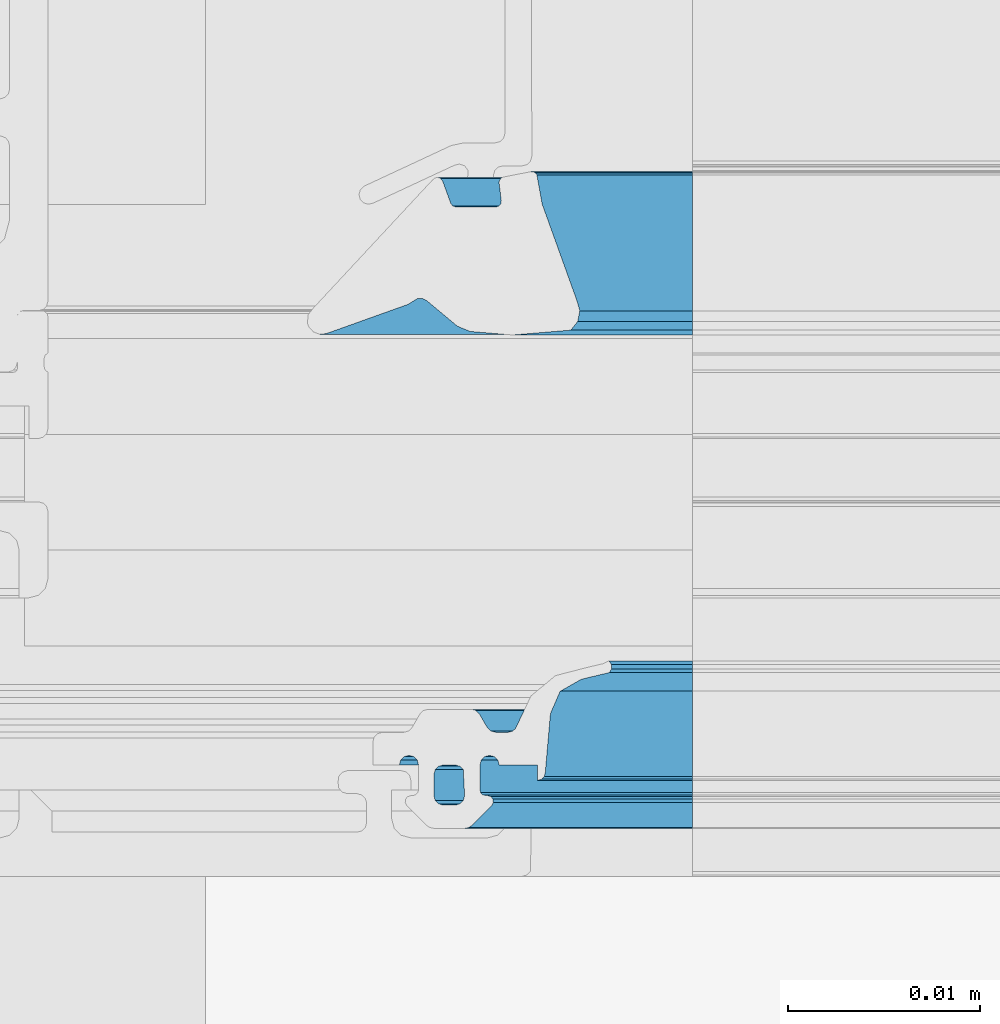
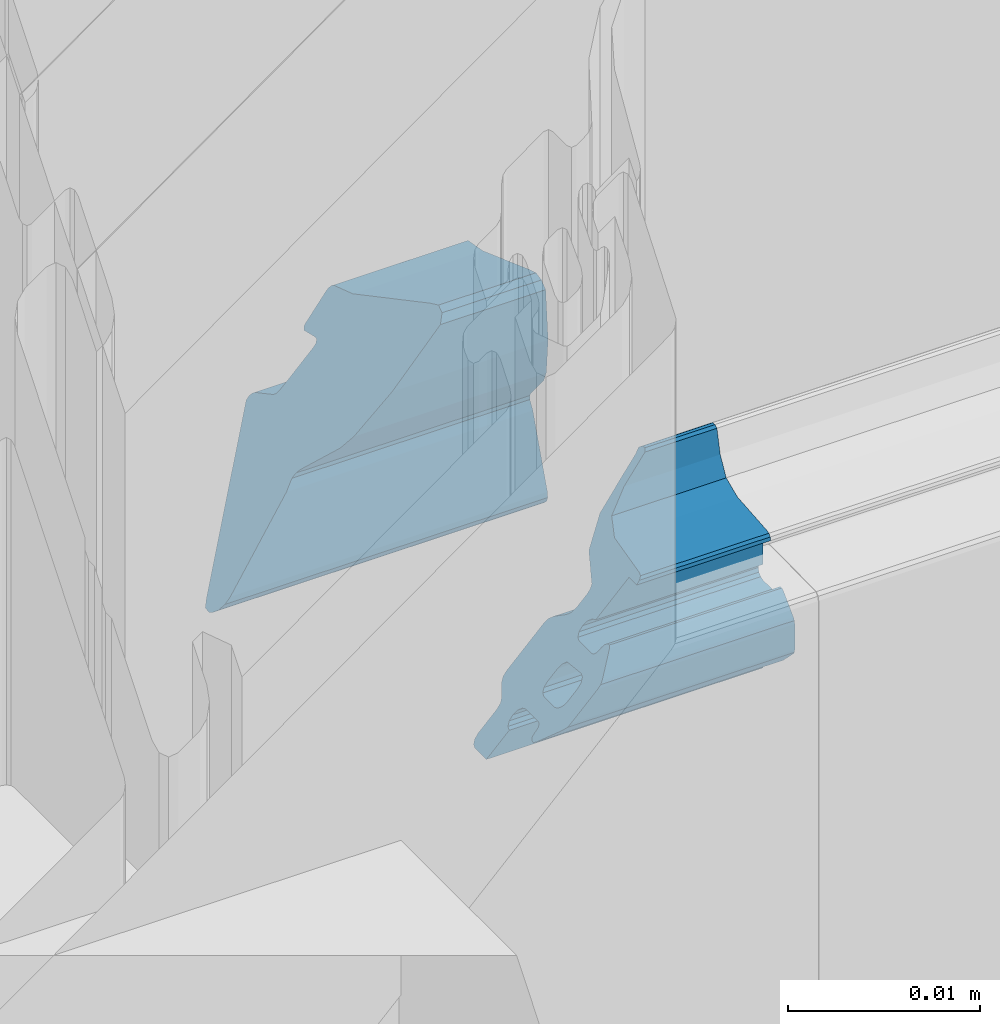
# One storey, part 40 of 69: 1 building element part, 2 elements without a shape of their own.
"""IFC2X3 building model written with IfcOpenShell, lengths in millimetres."""

from ifc_helpers import new_model, entity, si_unit, converted_unit, derived_unit, money_unit, direction, frame, origin_with_axes, place, context, subcontext, project, spatial, faceted_brep, material, type_object, element, aggregate, save


model = new_model("IFC2X3")

# Units and contexts
model_context = context("Model", 3, precision=0.01, world=origin_with_axes(), true_north=direction((0.0, 1.0)))
body_context = subcontext(model_context, "Body", "Model", "MODEL_VIEW")
ifc_project = project(units=[si_unit("LENGTHUNIT", "METRE", prefix="MILLI"), si_unit("AREAUNIT", "SQUARE_METRE"), si_unit("VOLUMEUNIT", "CUBIC_METRE"), converted_unit("PLANEANGLEUNIT", "DEGREE", entity("IfcPlaneAngleMeasure", 0.0174532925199), si_unit("PLANEANGLEUNIT", "RADIAN"), dimensions=[0, 0, 0, 0, 0, 0, 0]), si_unit("SOLIDANGLEUNIT", "STERADIAN"), money_unit("EUR"), converted_unit("TIMEUNIT", "Year", entity("IfcTimeMeasure", 31556926.0), si_unit("TIMEUNIT", "SECOND"), dimensions=[0, 0, 1, 0, 0, 0, 0]), si_unit("MASSUNIT", "GRAM", prefix="KILO"), si_unit("THERMODYNAMICTEMPERATUREUNIT", "DEGREE_CELSIUS"), si_unit("LUMINOUSINTENSITYUNIT", "LUMEN"), si_unit("ENERGYUNIT", "JOULE", prefix="MEGA"), derived_unit("THERMALCONDUCTANCEUNIT", [(si_unit("POWERUNIT", "WATT"), 1), (si_unit("LENGTHUNIT", "METRE"), -1), (si_unit("THERMODYNAMICTEMPERATUREUNIT", "KELVIN"), -1)]), derived_unit("SPECIFICHEATCAPACITYUNIT", [(si_unit("ENERGYUNIT", "JOULE"), 1), (si_unit("MASSUNIT", "GRAM", prefix="KILO"), -1), (si_unit("THERMODYNAMICTEMPERATUREUNIT", "KELVIN"), -1)]), derived_unit("MASSDENSITYUNIT", [(si_unit("MASSUNIT", "GRAM", prefix="KILO"), 1), (si_unit("VOLUMEUNIT", "CUBIC_METRE"), -1)])], contexts=[model_context])

# Site, building, storey
site_placement = place(None, origin_with_axes())
site = spatial("IfcSite", under=ifc_project, at=site_placement, Name="Puškini 31, Narva", CompositionType="ELEMENT")
building_placement = place(site_placement, origin_with_axes())
building = spatial("IfcBuilding", under=site, at=building_placement, Name="Narva Riigigümnaasium", CompositionType="ELEMENT")
storey_placement = place(building_placement, origin_with_axes())
storey = spatial("IfcBuildingStorey", under=building, at=storey_placement, Name="1.korrus 0.00", CompositionType="ELEMENT", Elevation=0.0)

# Curtain wall, member, building element part
curtain_wall_type = type_object("IfcCurtainWallType", Name="Curtain Wall Type", PredefinedType="NOTDEFINED")
curtain_wall_placement = place(storey_placement, frame((18229.9603698, 152620.000001, -0.397158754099), z_axis=(0.0, 0.0, 1.0), x_axis=(1.0, 0.0, 0.0)))
curtain_wall = element("IfcCurtainWall", 1, at=curtain_wall_placement, inside=storey, type_object=curtain_wall_type, Name="G-KLF-01-1")
member_type = type_object("IfcMemberType", Name="61 x 45", PredefinedType="MULLION")
member_placement = place(curtain_wall_placement, frame((-2105.59313248, 0.0, 0.0), z_axis=(-1.0, 0.0, 0.0), x_axis=(0.0, 0.0, 1.0)))
member = element("IfcMember", 2, at=member_placement, type_object=member_type, Name="G-SKLF-07-raam", ObjectType="MULLION")
aggregate(curtain_wall, [member])
ifc_material = material(Name="Membraan - Veekindel")
building_element_part_placement = place(member_placement, origin_with_axes())
building_element_part = element("IfcBuildingElementPart", 3, at=building_element_part_placement, material=ifc_material, Name="Membraan - Veekindel", context=body_context, shape_type="Brep", body=[
    faceted_brep([(61.0413385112, -34.3890442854, 0.0), (61.0413385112, -34.3890442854, 4.32587234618), (59.5800222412, -34.73794757, 5.78718861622), (59.5800222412, -34.73794757, 0.0), (61.1536677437, -34.1934467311, 0.0), (61.1536677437, -34.1934467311, 4.21354311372), (61.1423164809, -33.9681748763, 4.22489437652), (61.0108941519, -33.784859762, 4.35631670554), (60.7381535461, -33.9217644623, 4.62905731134), (59.8409257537, -34.1343131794, 5.52628510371), (58.2346494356, -34.5489145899, 7.13256142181), (56.9567944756, -35.6067920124, 8.41041638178), (56.2495873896, -37.1074172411, 9.11762346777), (56.1542959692, -37.3107917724, 9.21291488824), (55.9795989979, -37.4519392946, 9.38761185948), (55.7607444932, -37.5023809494, 9.60646636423), (55.1093263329, -37.5023809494, 10.2578845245), (54.8593263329, -37.4353936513, 10.5078845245), (54.676313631, -37.2523809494, 10.6908972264), (54.2721684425, -36.5523809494, 11.0950424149), (54.0891557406, -36.3693682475, 11.2780551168), (53.8391557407, -36.3023809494, 11.5280551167), (51.602145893, -36.3023809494, 13.7650649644), (51.352145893, -36.3693682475, 14.0150649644), (51.1691331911, -36.5523809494, 14.1980776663), (50.7649880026, -37.2523809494, 14.6022228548), (50.5819753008, -37.4353936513, 14.7852355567), (50.3319753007, -37.5023809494, 15.0352355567), (49.2206527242, -37.5023809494, 16.1465581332), (48.9706527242, -37.5693682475, 16.3965581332), (48.7876400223, -37.7523809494, 16.5795708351), (48.7206527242, -38.0023809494, 16.6465581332), (48.7206527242, -39.1999494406, 16.6465581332), (50.10004, -39.1999494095, 15.2671708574), (50.1670287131, -38.9499497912, 15.2001821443), (50.3500424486, -38.7669381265, 15.0171684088), (50.6000428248, -38.699952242, 14.7671680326), (50.8500424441, -38.7669409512, 14.5171684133), (51.0330541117, -38.9499546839, 14.3341567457), (51.10004, -39.1999550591, 14.2671708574), (51.10004, -40.4999366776, 14.2671708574), (51.0598476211, -40.6499366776, 14.3073632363), (50.95004, -40.7597442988, 14.4171708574), (50.80004, -40.7999366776, 14.5671708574), (50.7000457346, -40.7999366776, 14.6671651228), (50.5334025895, -40.8504763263, 14.8338082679), (50.4229059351, -40.9850671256, 14.9443049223), (50.4057850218, -41.1583618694, 14.9614258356), (50.4878083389, -41.3119729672, 14.8794025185), (51.5281601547, -42.3533311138, 13.8390507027), (51.6904310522, -42.4618421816, 13.6767798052), (51.8818844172, -42.4999486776, 13.4853264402), (53.517932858, -42.4999486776, 11.8492779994), (53.7093558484, -42.4618547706, 11.657855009), (53.8716106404, -42.3533776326, 11.495600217), (54.9122350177, -41.3120206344, 10.4549758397), (54.9942836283, -41.1584047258, 10.3729272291), (54.9771753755, -40.9850924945, 10.3900354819), (54.866675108, -40.850483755, 10.5005357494), (54.7000173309, -40.7999366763, 10.6671935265), (54.6000210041, -40.7999366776, 10.7671898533), (54.4500210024, -40.7597443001, 10.917189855), (54.3402133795, -40.6499366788, 11.0269974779), (54.300021, -40.4999366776, 11.0671898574), (54.300021, -39.1999606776, 11.0671898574), (54.3670082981, -38.9499606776, 11.0002025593), (54.5500210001, -38.7669479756, 10.8171898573), (54.8000210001, -38.6999606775, 10.5671898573), (55.0500210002, -38.7669479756, 10.3171898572), (55.2330337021, -38.9499606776, 10.1341771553), (55.3000210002, -39.1999606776, 10.0671898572), (57.3000022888, -39.1999494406, 8.06720856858), (57.3000022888, -39.9999846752, 8.06720856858), (57.5000161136, -39.9463912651, 7.86719474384), (57.6464370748, -39.7999717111, 7.72077378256), (57.7000324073, -39.5999584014, 7.66717845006), (57.9693613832, -36.5265882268, 7.39784947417), (58.4755028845, -35.3628499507, 6.89170797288), (53.5000340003, -40.7999553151, 11.8671768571), (53.4330491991, -41.0499459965, 11.9341616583), (53.2500433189, -41.2329518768, 12.1171675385), (53.0000526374, -41.299936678, 12.36715822), (52.4000083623, -41.299936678, 12.9672024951), (52.150017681, -41.2329518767, 13.2171931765), (51.9670118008, -41.0499459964, 13.4001990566), (51.9000269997, -40.799955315, 13.4671838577), (51.9000269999, -39.6999268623, 13.4671838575), (51.9670129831, -39.4499317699, 13.4001978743), (52.1500220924, -39.2669226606, 13.217188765), (52.4000171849, -39.1999366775, 12.9671936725), (53.0000438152, -39.1999366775, 12.3671670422), (53.2500389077, -39.2669226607, 12.1171719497), (53.433048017, -39.44993177, 11.9341628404), (58.4755028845, -35.3628499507, 0.0), (57.9693613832, -36.5265882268, 0.0), (57.7000324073, -39.5999584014, 0.0), (57.6464370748, -39.7999717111, 0.0), (57.5000161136, -39.9463912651, 0.0), (57.3000022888, -39.9999846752, 0.0), (57.3000022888, -39.1999494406, 0.0), (55.3000210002, -39.1999606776, 0.0), (55.2330337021, -38.9499606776, 0.0), (55.0500210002, -38.7669479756, 0.0), (54.8000210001, -38.6999606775, 0.0), (54.5500210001, -38.7669479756, 0.0), (54.3670082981, -38.9499606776, 0.0), (54.300021, -39.1999606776, 0.0), (54.300021, -40.4999366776, 0.0), (54.3402133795, -40.6499366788, 0.0), (54.4500210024, -40.7597443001, 0.0), (54.6000210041, -40.7999366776, 0.0), (54.7000173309, -40.7999366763, 0.0), (54.866675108, -40.850483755, 0.0), (54.9771753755, -40.9850924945, 0.0), (54.9942836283, -41.1584047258, 0.0), (54.9122350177, -41.3120206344, 0.0), (53.8716106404, -42.3533776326, 0.0), (53.7093558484, -42.4618547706, 0.0), (53.517932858, -42.4999486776, 0.0), (51.8818844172, -42.4999486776, 0.0), (51.6904310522, -42.4618421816, 0.0), (51.5281601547, -42.3533311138, 0.0), (50.4878083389, -41.3119729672, 0.0), (50.4057850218, -41.1583618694, 0.0), (50.4229059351, -40.9850671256, 0.0), (50.5334025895, -40.8504763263, 0.0), (50.7000457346, -40.7999366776, 0.0), (50.80004, -40.7999366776, 0.0), (50.95004, -40.7597442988, 0.0), (51.0598476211, -40.6499366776, 0.0), (51.10004, -40.4999366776, 0.0), (51.10004, -39.1999550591, 0.0), (51.0330541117, -38.9499546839, 0.0), (50.8500424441, -38.7669409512, 0.0), (50.6000428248, -38.699952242, 0.0), (50.3500424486, -38.7669381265, 0.0), (50.1670287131, -38.9499497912, 0.0), (50.10004, -39.1999494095, 0.0), (48.7206527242, -39.1999494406, 0.0), (48.7206527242, -38.0023809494, 0.0), (48.7876400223, -37.7523809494, 0.0), (48.9706527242, -37.5693682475, 0.0), (49.2206527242, -37.5023809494, 0.0), (50.3319753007, -37.5023809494, 0.0), (50.5819753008, -37.4353936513, 0.0), (50.7649880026, -37.2523809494, 0.0), (51.1691331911, -36.5523809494, 0.0), (51.352145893, -36.3693682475, 0.0), (51.602145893, -36.3023809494, 0.0), (53.8391557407, -36.3023809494, 0.0), (54.0891557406, -36.3693682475, 0.0), (54.2721684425, -36.5523809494, 0.0), (54.676313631, -37.2523809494, 0.0), (54.8593263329, -37.4353936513, 0.0), (55.1093263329, -37.5023809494, 0.0), (55.7607444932, -37.5023809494, 0.0), (55.9795989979, -37.4519392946, 0.0), (56.1542959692, -37.3107917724, 0.0), (56.2495873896, -37.1074172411, 0.0), (56.9567944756, -35.6067920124, 0.0), (58.2346494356, -34.5489145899, 0.0), (59.8409257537, -34.1343131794, 0.0), (60.7381535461, -33.9217644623, 0.0), (61.0108941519, -33.784859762, 0.0), (61.1423164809, -33.9681748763, 0.0), (53.5000340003, -40.7999553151, 0.0), (53.433048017, -39.44993177, 0.0), (53.2500389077, -39.2669226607, 0.0), (53.0000438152, -39.1999366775, 0.0), (52.4000171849, -39.1999366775, 0.0), (52.1500220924, -39.2669226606, 0.0), (51.9670129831, -39.4499317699, 0.0), (51.9000269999, -39.6999268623, 0.0), (51.9000269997, -40.799955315, 0.0), (51.9670118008, -41.0499459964, 0.0), (52.150017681, -41.2329518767, 0.0), (52.4000083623, -41.299936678, 0.0), (53.0000526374, -41.299936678, 0.0), (53.2500433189, -41.2329518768, 0.0), (53.4330491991, -41.0499459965, 0.0)], [[[0, 1, 2, 3]], [[4, 5, 1, 0]], [[1, 5, 6, 7, 8, 9, 10, 11, 12, 13, 14, 15, 16, 17, 18, 19, 20, 21, 22, 23, 24, 25, 26, 27, 28, 29, 30, 31, 32, 33, 34, 35, 36, 37, 38, 39, 40, 41, 42, 43, 44, 45, 46, 47, 48, 49, 50, 51, 52, 53, 54, 55, 56, 57, 58, 59, 60, 61, 62, 63, 64, 65, 66, 67, 68, 69, 70, 71, 72, 73, 74, 75, 76, 77, 2], [78, 79, 80, 81, 82, 83, 84, 85, 86, 87, 88, 89, 90, 91, 92]], [[3, 2, 77, 93]], [[0, 3, 93, 94, 95, 96, 97, 98, 99, 100, 101, 102, 103, 104, 105, 106, 107, 108, 109, 110, 111, 112, 113, 114, 115, 116, 117, 118, 119, 120, 121, 122, 123, 124, 125, 126, 127, 128, 129, 130, 131, 132, 133, 134, 135, 136, 137, 138, 139, 140, 141, 142, 143, 144, 145, 146, 147, 148, 149, 150, 151, 152, 153, 154, 155, 156, 157, 158, 159, 160, 161, 162, 163, 164, 4], [165, 166, 167, 168, 169, 170, 171, 172, 173, 174, 175, 176, 177, 178, 179]], [[164, 6, 5, 4]], [[163, 7, 6, 164]], [[162, 8, 7, 163]], [[161, 9, 8, 162]], [[160, 10, 9, 161]], [[159, 11, 10, 160]], [[158, 12, 11, 159]], [[157, 13, 12, 158]], [[156, 14, 13, 157]], [[155, 15, 14, 156]], [[154, 16, 15, 155]], [[153, 17, 16, 154]], [[152, 18, 17, 153]], [[151, 19, 18, 152]], [[150, 20, 19, 151]], [[149, 21, 20, 150]], [[148, 22, 21, 149]], [[147, 23, 22, 148]], [[146, 24, 23, 147]], [[145, 25, 24, 146]], [[144, 26, 25, 145]], [[143, 27, 26, 144]], [[142, 28, 27, 143]], [[141, 29, 28, 142]], [[140, 30, 29, 141]], [[139, 31, 30, 140]], [[138, 32, 31, 139]], [[137, 33, 32, 138]], [[136, 34, 33, 137]], [[135, 35, 34, 136]], [[134, 36, 35, 135]], [[133, 37, 36, 134]], [[132, 38, 37, 133]], [[131, 39, 38, 132]], [[130, 40, 39, 131]], [[129, 41, 40, 130]], [[128, 42, 41, 129]], [[127, 43, 42, 128]], [[126, 44, 43, 127]], [[125, 45, 44, 126]], [[124, 46, 45, 125]], [[123, 47, 46, 124]], [[122, 48, 47, 123]], [[121, 49, 48, 122]], [[120, 50, 49, 121]], [[119, 51, 50, 120]], [[118, 52, 51, 119]], [[117, 53, 52, 118]], [[116, 54, 53, 117]], [[115, 55, 54, 116]], [[114, 56, 55, 115]], [[113, 57, 56, 114]], [[112, 58, 57, 113]], [[111, 59, 58, 112]], [[110, 60, 59, 111]], [[109, 61, 60, 110]], [[108, 62, 61, 109]], [[107, 63, 62, 108]], [[106, 64, 63, 107]], [[105, 65, 64, 106]], [[104, 66, 65, 105]], [[103, 67, 66, 104]], [[102, 68, 67, 103]], [[101, 69, 68, 102]], [[100, 70, 69, 101]], [[99, 71, 70, 100]], [[98, 72, 71, 99]], [[97, 73, 72, 98]], [[96, 74, 73, 97]], [[95, 75, 74, 96]], [[94, 76, 75, 95]], [[93, 77, 76, 94]], [[179, 79, 78, 165]], [[178, 80, 79, 179]], [[177, 81, 80, 178]], [[176, 82, 81, 177]], [[175, 83, 82, 176]], [[174, 84, 83, 175]], [[173, 85, 84, 174]], [[172, 86, 85, 173]], [[171, 87, 86, 172]], [[170, 88, 87, 171]], [[169, 89, 88, 170]], [[168, 90, 89, 169]], [[167, 91, 90, 168]], [[166, 92, 91, 167]], [[165, 78, 92, 166]]]),
    faceted_brep([(59.0307115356, -16.554149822, 0.0), (59.0307115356, -16.554149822, 6.33649932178), (55.9926715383, -16.8063498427, 9.37453931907), (55.9926715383, -16.8063498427, 0.0), (59.3884652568, -16.1092618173, 0.0), (59.3884652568, -16.1092618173, 5.97874560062), (59.5001582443, -15.5494067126, 5.86705261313), (59.3405112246, -15.0012955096, 6.02669963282), (57.5418652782, -10.0035930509, 7.82534557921), (57.2632233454, -8.46932121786, 8.10398751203), (57.1824204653, -8.36745448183, 8.18479039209), (57.0661058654, -8.3093438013, 8.30110499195), (56.9361285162, -8.30590490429, 8.43108234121), (55.5361285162, -8.57803733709, 9.83108234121), (55.4168250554, -8.6299735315, 9.95038580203), (55.3307332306, -8.7275382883, 10.0364776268), (55.2940485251, -8.85237785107, 10.0731623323), (55.4099827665, -9.81272116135, 9.95722809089), (55.3838261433, -9.97808311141, 9.9833847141), (55.2731258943, -10.1036784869, 10.0940849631), (55.1123574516, -10.1503930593, 10.2548534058), (53.0580290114, -10.1503930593, 12.309181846), (52.8859560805, -10.0961386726, 12.4812547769), (52.7761212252, -9.95299910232, 12.5910896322), (52.3556584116, -8.79778701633, 13.0115524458), (52.2574645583, -8.66326410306, 13.1097462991), (52.1026310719, -8.60190419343, 13.2645797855), (51.938943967, -8.6326446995, 13.4282668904), (51.8169217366, -8.74599822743, 13.5502891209), (45.6142070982, -15.4144760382, 19.7530037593), (45.3418968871, -15.7688623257, 20.0253139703), (45.3195226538, -16.2152275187, 20.0476882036), (45.3889077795, -16.3899097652, 19.9783030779), (45.6241929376, -16.6482027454, 19.7430179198), (45.950966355, -16.7718696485, 19.4162445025), (46.298307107, -16.7340705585, 19.0689037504), (50.5536994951, -15.2121179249, 14.8135113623), (50.8437237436, -15.0307134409, 14.5234871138), (51.0558924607, -14.9074036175, 14.3113183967), (51.3011765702, -14.8998814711, 14.0660342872), (51.5205025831, -15.0099586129, 13.8467082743), (53.1225200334, -16.3483062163, 12.244690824), (53.7899070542, -16.6230039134, 11.5773038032), (53.7899070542, -16.6230039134, 0.0), (53.1225200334, -16.3483062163, 0.0), (51.5205025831, -15.0099586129, 0.0), (51.3011765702, -14.8998814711, 0.0), (51.0558924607, -14.9074036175, 0.0), (50.8437237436, -15.0307134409, 0.0), (50.5536994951, -15.2121179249, 0.0), (46.298307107, -16.7340705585, 0.0), (45.950966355, -16.7718696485, 0.0), (45.6241929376, -16.6482027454, 0.0), (45.3889077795, -16.3899097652, 0.0), (45.3195226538, -16.2152275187, 0.0), (45.3418968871, -15.7688623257, 0.0), (45.6142070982, -15.4144760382, 0.0), (51.8169217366, -8.74599822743, 0.0), (51.938943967, -8.6326446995, 0.0), (52.1026310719, -8.60190419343, 0.0), (52.2574645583, -8.66326410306, 0.0), (52.3556584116, -8.79778701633, 0.0), (52.7761212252, -9.95299910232, 0.0), (52.8859560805, -10.0961386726, 0.0), (53.0580290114, -10.1503930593, 0.0), (55.1123574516, -10.1503930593, 0.0), (55.2731258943, -10.1036784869, 0.0), (55.3838261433, -9.97808311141, 0.0), (55.4099827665, -9.81272116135, 0.0), (55.2940485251, -8.85237785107, 0.0), (55.3307332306, -8.7275382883, 0.0), (55.4168250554, -8.6299735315, 0.0), (55.5361285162, -8.57803733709, 0.0), (56.9361285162, -8.30590490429, 0.0), (57.0661058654, -8.3093438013, 0.0), (57.1824204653, -8.36745448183, 0.0), (57.2632233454, -8.46932121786, 0.0), (57.5418652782, -10.0035930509, 0.0), (59.3405112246, -15.0012955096, 0.0), (59.5001582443, -15.5494067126, 0.0)], [[[0, 1, 2, 3]], [[4, 5, 1, 0]], [[1, 5, 6, 7, 8, 9, 10, 11, 12, 13, 14, 15, 16, 17, 18, 19, 20, 21, 22, 23, 24, 25, 26, 27, 28, 29, 30, 31, 32, 33, 34, 35, 36, 37, 38, 39, 40, 41, 42, 2]], [[3, 2, 42, 43]], [[0, 3, 43, 44, 45, 46, 47, 48, 49, 50, 51, 52, 53, 54, 55, 56, 57, 58, 59, 60, 61, 62, 63, 64, 65, 66, 67, 68, 69, 70, 71, 72, 73, 74, 75, 76, 77, 78, 79, 4]], [[79, 6, 5, 4]], [[78, 7, 6, 79]], [[77, 8, 7, 78]], [[76, 9, 8, 77]], [[75, 10, 9, 76]], [[74, 11, 10, 75]], [[73, 12, 11, 74]], [[72, 13, 12, 73]], [[71, 14, 13, 72]], [[70, 15, 14, 71]], [[69, 16, 15, 70]], [[68, 17, 16, 69]], [[67, 18, 17, 68]], [[66, 19, 18, 67]], [[65, 20, 19, 66]], [[64, 21, 20, 65]], [[63, 22, 21, 64]], [[62, 23, 22, 63]], [[61, 24, 23, 62]], [[60, 25, 24, 61]], [[59, 26, 25, 60]], [[58, 27, 26, 59]], [[57, 28, 27, 58]], [[56, 29, 28, 57]], [[55, 30, 29, 56]], [[54, 31, 30, 55]], [[53, 32, 31, 54]], [[52, 33, 32, 53]], [[51, 34, 33, 52]], [[50, 35, 34, 51]], [[49, 36, 35, 50]], [[48, 37, 36, 49]], [[47, 38, 37, 48]], [[46, 39, 38, 47]], [[45, 40, 39, 46]], [[44, 41, 40, 45]], [[43, 42, 41, 44]]]),
])
aggregate(member, [building_element_part])

save(model, "model.ifc")
